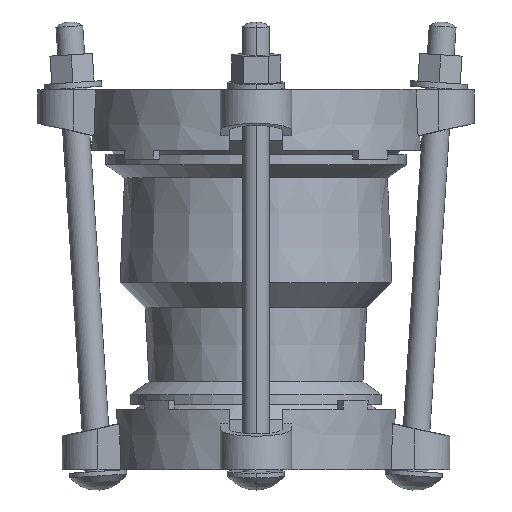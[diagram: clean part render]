
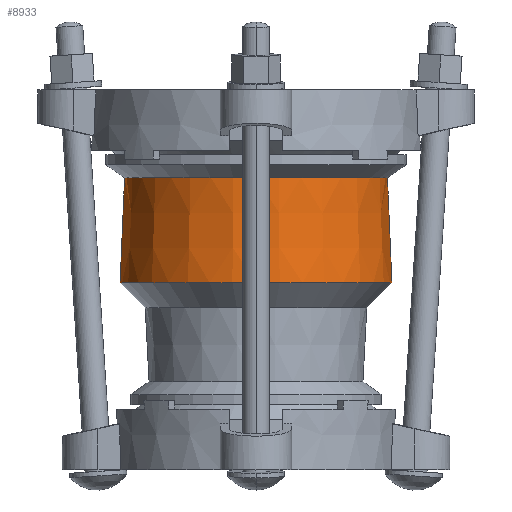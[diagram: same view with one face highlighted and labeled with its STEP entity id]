
A CAD part, left-side view. The second image highlights one B-rep face of the part: STEP entity #8933.
In plain terms, the highlighted conical face has half-angle 2.442 degrees and reference radius 59.851 mm.
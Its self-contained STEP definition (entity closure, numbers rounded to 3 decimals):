
#8566=DIRECTION('',(0.,-0.043,0.999));
#8567=VECTOR('',#8566,46.933);
#8568=CARTESIAN_POINT('',(0.,60.851,-86.272));
#8569=LINE('',#8568,#8567);
#8575=DIRECTION('',(0.,0.043,0.999));
#8576=VECTOR('',#8575,46.933);
#8577=CARTESIAN_POINT('',(0.,-60.851,
-86.272));
#8578=LINE('',#8577,#8576);
#8579=CARTESIAN_POINT('',(0.,0.,-86.272));
#8580=DIRECTION('',(0.,0.,1.));
#8581=DIRECTION('',(0.,1.,0.));
#8582=AXIS2_PLACEMENT_3D('',#8579,#8580,#8581);
#8584=CARTESIAN_POINT('',(0.,0.,-39.381));
#8585=DIRECTION('',(0.,0.,1.));
#8586=DIRECTION('',(0.,1.,0.));
#8587=AXIS2_PLACEMENT_3D('',#8584,#8585,#8586);
#8726=CARTESIAN_POINT('',(0.,60.851,-86.272));
#8727=VERTEX_POINT('',#8726);
#8728=CARTESIAN_POINT('',(0.,58.851,-39.381));
#8729=VERTEX_POINT('',#8728);
#8754=CARTESIAN_POINT('',(0.,-60.851,
-86.272));
#8755=VERTEX_POINT('',#8754);
#8756=CARTESIAN_POINT('',(0.,-58.851,
-39.381));
#8757=VERTEX_POINT('',#8756);
#8921=CARTESIAN_POINT('',(0.,0.,-62.826));
#8922=DIRECTION('',(0.,0.,-1.));
#8923=DIRECTION('',(0.,-1.,0.));
#8924=AXIS2_PLACEMENT_3D('',#8921,#8922,#8923);
#8925=CONICAL_SURFACE('',#8924,59.851,2.442);
#8926=ORIENTED_EDGE('',*,*,#8911,.T.);
#8928=ORIENTED_EDGE('',*,*,#8927,.T.);
#8929=ORIENTED_EDGE('',*,*,#8914,.F.);
#8930=ORIENTED_EDGE('',*,*,#8885,.F.);
#8931=EDGE_LOOP('',(#8926,#8928,#8929,#8930));
#8932=FACE_OUTER_BOUND('',#8931,.F.);
#8933=ADVANCED_FACE('',(#8932),#8925,.T.);
#8583=CIRCLE('',#8582,60.851);
#8588=CIRCLE('',#8587,58.851);
#8885=EDGE_CURVE('',#8727,#8755,#8583,.T.);
#8911=EDGE_CURVE('',#8727,#8729,#8569,.T.);
#8914=EDGE_CURVE('',#8755,#8757,#8578,.T.);
#8927=EDGE_CURVE('',#8729,#8757,#8588,.T.);
